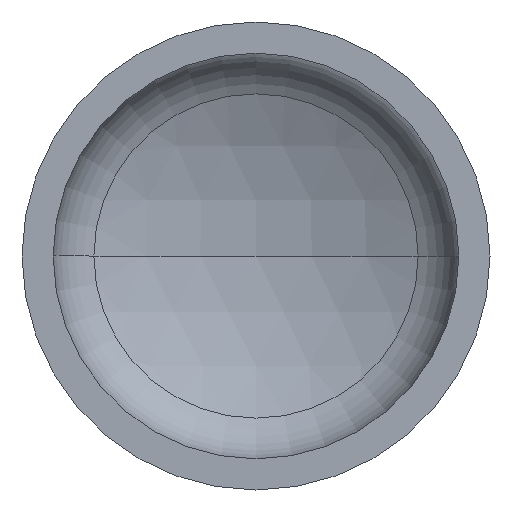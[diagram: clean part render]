
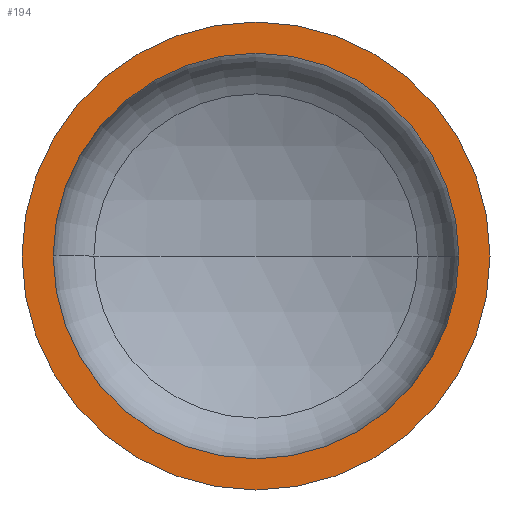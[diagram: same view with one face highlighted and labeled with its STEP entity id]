
A CAD part, front view. The second image highlights one B-rep face of the part: STEP entity #194.
In plain terms, the highlighted planar face has unit normal (0, -1, 0).
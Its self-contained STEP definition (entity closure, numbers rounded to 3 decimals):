
#8 = PLANE ( 'NONE',  #38 ) ;
#17 = CARTESIAN_POINT ( 'NONE',  ( -750., 0., 0. ) ) ;
#23 = DIRECTION ( 'NONE',  ( 0., -1., 0. ) ) ;
#27 = CARTESIAN_POINT ( 'NONE',  ( 0., 0., 0. ) ) ;
#28 = ORIENTED_EDGE ( 'NONE', *, *, #73, .T. ) ;
#34 = CARTESIAN_POINT ( 'NONE',  ( 650., 0., 0. ) ) ;
#38 = AXIS2_PLACEMENT_3D ( 'NONE', #17, #61, #189 ) ;
#40 = DIRECTION ( 'NONE',  ( 1., 0., 0. ) ) ;
#48 = AXIS2_PLACEMENT_3D ( 'NONE', #27, #23, #40 ) ;
#57 = AXIS2_PLACEMENT_3D ( 'NONE', #396, #398, #319 ) ;
#58 = AXIS2_PLACEMENT_3D ( 'NONE', #362, #376, #372 ) ;
#59 = AXIS2_PLACEMENT_3D ( 'NONE', #325, #190, #208 ) ;
#61 = DIRECTION ( 'NONE',  ( 0., 1., 0. ) ) ;
#71 = EDGE_CURVE ( 'NONE', #403, #72, #207, .T. ) ;
#72 = VERTEX_POINT ( 'NONE', #242 ) ;
#73 = EDGE_CURVE ( 'NONE', #72, #403, #121, .T. ) ;
#75 = EDGE_CURVE ( 'NONE', #159, #141, #321, .T. ) ;
#85 = EDGE_LOOP ( 'NONE', ( #106, #97 ) ) ;
#86 = EDGE_LOOP ( 'NONE', ( #28, #115 ) ) ;
#97 = ORIENTED_EDGE ( 'NONE', *, *, #149, .F. ) ;
#106 = ORIENTED_EDGE ( 'NONE', *, *, #75, .F. ) ;
#115 = ORIENTED_EDGE ( 'NONE', *, *, #71, .T. ) ;
#121 = CIRCLE ( 'NONE', #58, 750. ) ;
#141 = VERTEX_POINT ( 'NONE', #199 ) ;
#149 = EDGE_CURVE ( 'NONE', #141, #159, #384, .T. ) ;
#159 = VERTEX_POINT ( 'NONE', #34 ) ;
#185 = FACE_OUTER_BOUND ( 'NONE', #86, .T. ) ;
#189 = DIRECTION ( 'NONE',  ( -1., 0., 0. ) ) ;
#190 = DIRECTION ( 'NONE',  ( 0., -1., 0. ) ) ;
#193 = FACE_BOUND ( 'NONE', #85, .T. ) ;
#194 = ADVANCED_FACE ( 'NONE', ( #193, #185 ), #8, .F. ) ;
#199 = CARTESIAN_POINT ( 'NONE',  ( -650., 0., 0. ) ) ;
#207 = CIRCLE ( 'NONE', #59, 750. ) ;
#208 = DIRECTION ( 'NONE',  ( 1., 0., 0. ) ) ;
#242 = CARTESIAN_POINT ( 'NONE',  ( 750., 0., 0. ) ) ;
#319 = DIRECTION ( 'NONE',  ( 1., 0., 0. ) ) ;
#321 = CIRCLE ( 'NONE', #57, 650. ) ;
#325 = CARTESIAN_POINT ( 'NONE',  ( 0., 0., 0. ) ) ;
#328 = CARTESIAN_POINT ( 'NONE',  ( -750., 0., 0. ) ) ;
#362 = CARTESIAN_POINT ( 'NONE',  ( 0., 0., 0. ) ) ;
#372 = DIRECTION ( 'NONE',  ( 1., 0., 0. ) ) ;
#376 = DIRECTION ( 'NONE',  ( 0., -1., 0. ) ) ;
#384 = CIRCLE ( 'NONE', #48, 650. ) ;
#396 = CARTESIAN_POINT ( 'NONE',  ( 0., 0., 0. ) ) ;
#398 = DIRECTION ( 'NONE',  ( 0., -1., 0. ) ) ;
#403 = VERTEX_POINT ( 'NONE', #328 ) ;
